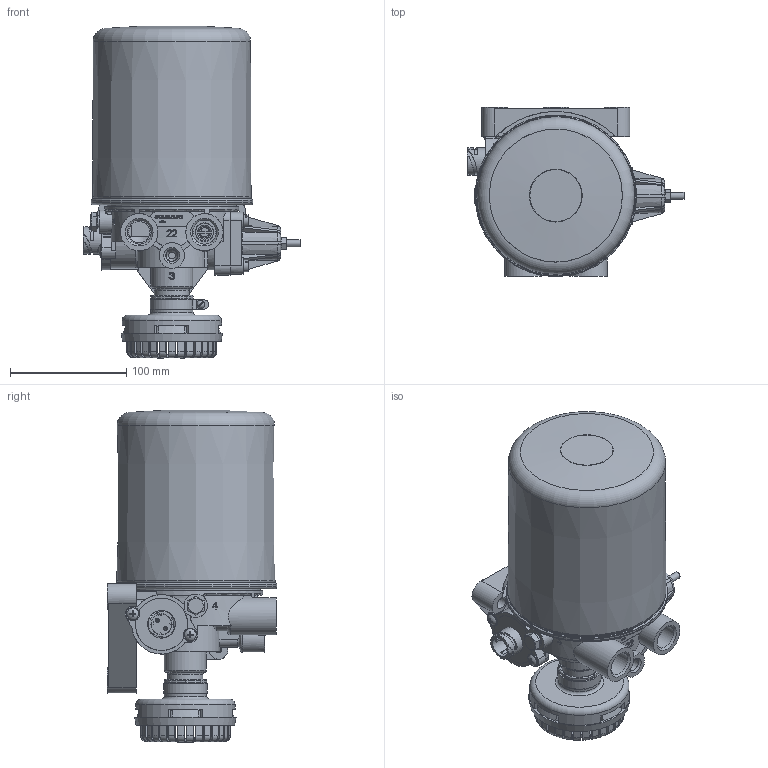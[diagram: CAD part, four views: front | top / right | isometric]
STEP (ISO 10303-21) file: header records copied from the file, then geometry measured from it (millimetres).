
FILE_DESCRIPTION(/* description */ (''),/* implementation_level */ '2;1');
FILE_NAME(/* name */ '8243.35.12.010-21-Реглятор давления с адсорбером_2.stp',/* time_stamp */ '2023-10-04T11:54:49+03:00',/* author */ (''),/* organization */ (''),/* preprocessor_version */ 'ST-DEVELOPER v16.7',/* originating_system */ 'SIEMENS PLM Software NX 1899',/* authorisation */ '');
FILE_SCHEMA (('AUTOMOTIVE_DESIGN { 1 0 10303 214 3 1 1 1 }'));
Length unit declared in the file: millimetre
Products named in the file (1): kuzm1DF85E98zv6q
Bounding box: 186.6 x 145.35 x 285 mm (x, y, z)
Volume: 521443.1 mm3; surface area: 413191.6 mm2
Topology: 1 solids, 16 shells, 2080 faces, 6022 edges, 3953 vertices
Faces by surface type: plane 1008, cylinder 508, torus 240, cone 179, extrusion 77, sphere 35, bspline 33
Full cylindrical faces by diameter (mm): 1.7 x2, 2 x2, 2.2 x1, 2.5 x3, 3 x2, 3.2 x3, 3.5 x2, 4 x3, 4.2 x5, 4.3 x1, 5 x6, 5.5 x2, 6 x9, 6.2 x1, 6.6 x4, 7 x1, 8 x2, 9.5 x1, 10 x7, 10.2 x1, 10.5 x6, 11.5 x2, 12 x1, 14 x1, 16 x2, 16.6 x1, 17 x1, 17.7 x1, 18.5 x1, 20 x3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
Entity records: 76549 total; most frequent: CARTESIAN_POINT 23990, ORIENTED_EDGE 11214, DIRECTION 10392, EDGE_CURVE 5607, AXIS2_PLACEMENT_3D 3892, VERTEX_POINT 3827, VECTOR 2608, EDGE_LOOP 2550
